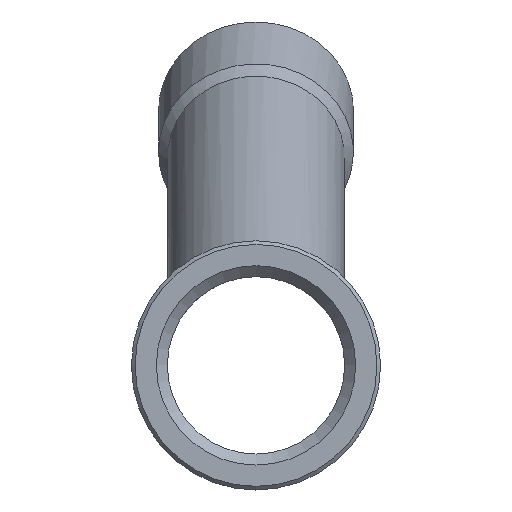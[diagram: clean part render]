
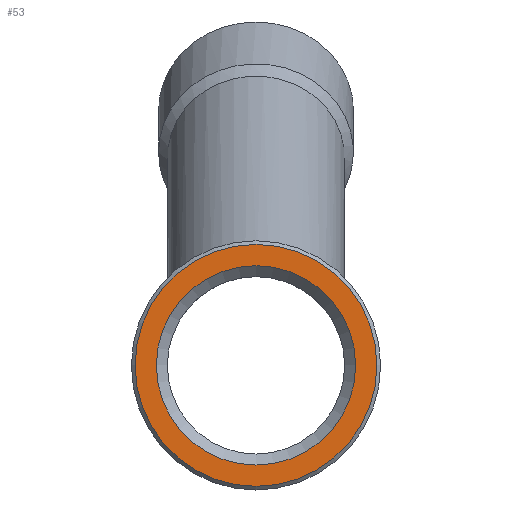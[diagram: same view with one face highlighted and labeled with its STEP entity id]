
A CAD part, front view. The second image highlights one B-rep face of the part: STEP entity #53.
In plain terms, the highlighted planar face has unit normal (0, -1, 0).
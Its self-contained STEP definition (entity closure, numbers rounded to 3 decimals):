
#53=ADVANCED_FACE('',(#449,#451),#453,.F.);
#449=FACE_BOUND('',#450,.T.);
#450=EDGE_LOOP('',(#2616));
#451=FACE_BOUND('',#452,.T.);
#452=EDGE_LOOP('',(#2617));
#453=PLANE('',#454);
#454=AXIS2_PLACEMENT_3D('',#455,#456,#457);
#455=CARTESIAN_POINT('',(0.,-22.5,0.));
#456=DIRECTION('',(0.,1.,0.));
#457=DIRECTION('',(-1.,0.,0.));
#2616=ORIENTED_EDGE('',*,*,#4768,.T.);
#2617=ORIENTED_EDGE('',*,*,#4758,.T.);
#4758=EDGE_CURVE('',#5641,#5641,#5642,.F.);
#4768=EDGE_CURVE('',#5661,#5661,#5662,.T.);
#5641=VERTEX_POINT('',#7347);
#5642=CIRCLE('',#7348,13.559);
#5661=VERTEX_POINT('',#7557);
#5662=CIRCLE('',#7558,16.45);
#7347=CARTESIAN_POINT('',(13.559,-22.5,0.));
#7348=AXIS2_PLACEMENT_3D('',#7349,#7350,#7351);
#7349=CARTESIAN_POINT('',(0.,-22.5,0.));
#7350=DIRECTION('',(0.,-1.,0.));
#7351=DIRECTION('',(1.,0.,0.));
#7557=CARTESIAN_POINT('',(16.45,-22.5,0.));
#7558=AXIS2_PLACEMENT_3D('',#7559,#7560,#7561);
#7559=CARTESIAN_POINT('',(0.,-22.5,0.));
#7560=DIRECTION('',(0.,-1.,0.));
#7561=DIRECTION('',(1.,0.,0.));
